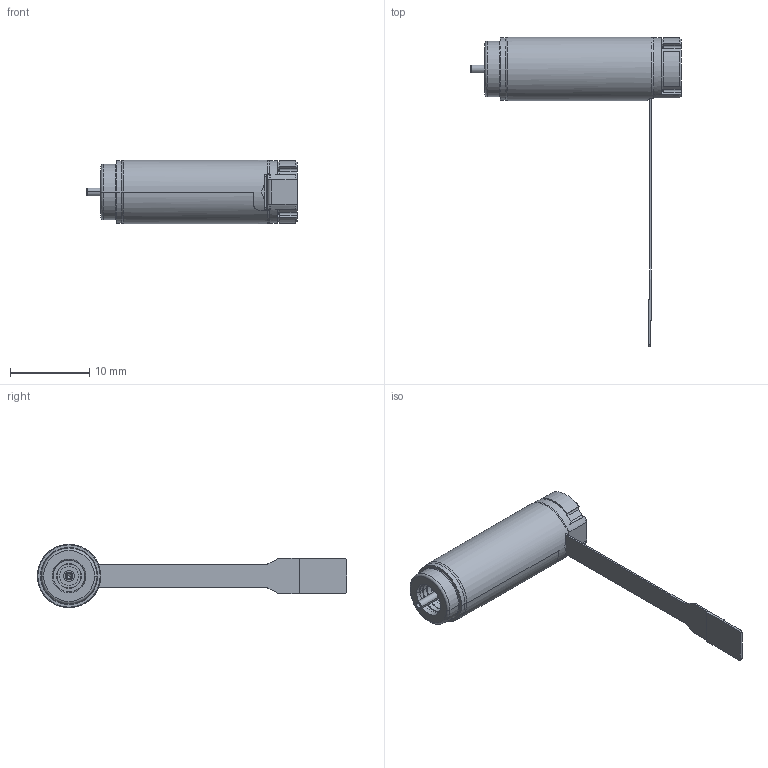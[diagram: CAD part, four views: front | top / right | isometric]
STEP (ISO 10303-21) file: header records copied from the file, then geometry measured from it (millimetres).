
FILE_DESCRIPTION((''),'2;1');
FILE_NAME('468334_EC8_2W_A','2016-10-17T',('mmagpetk'),(''),'CREO PARAMETRIC BY PTC INC, 2016050','CREO PARAMETRIC BY PTC INC, 2016050','');
FILE_SCHEMA(('CONFIG_CONTROL_DESIGN'));
Length unit declared in the file: millimetre
Products named in the file (1): 468334_EC8_2W_A
Bounding box: 26.56 x 39 x 8 mm (x, y, z)
Volume: 417.4 mm3; surface area: 1849.5 mm2
Topology: 2 solids, 2 shells, 441 faces, 1213 edges, 770 vertices
Faces by surface type: plane 200, cylinder 158, cone 29, bspline 24, torus 16, sphere 14
Entity records: 28336 total; most frequent: CARTESIAN_POINT 10302, ORIENTED_EDGE 2422, DIRECTION 2239, PRESENTATION_STYLE_ASSIGNMENT 1609, STYLED_ITEM 1213, CURVE_STYLE 1211, EDGE_CURVE 1211, AXIS2_PLACEMENT_3D 817
